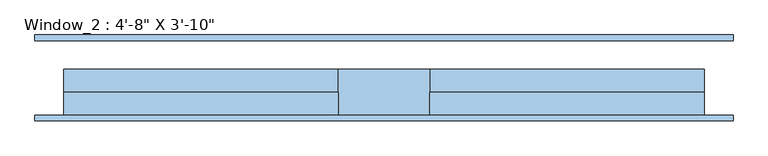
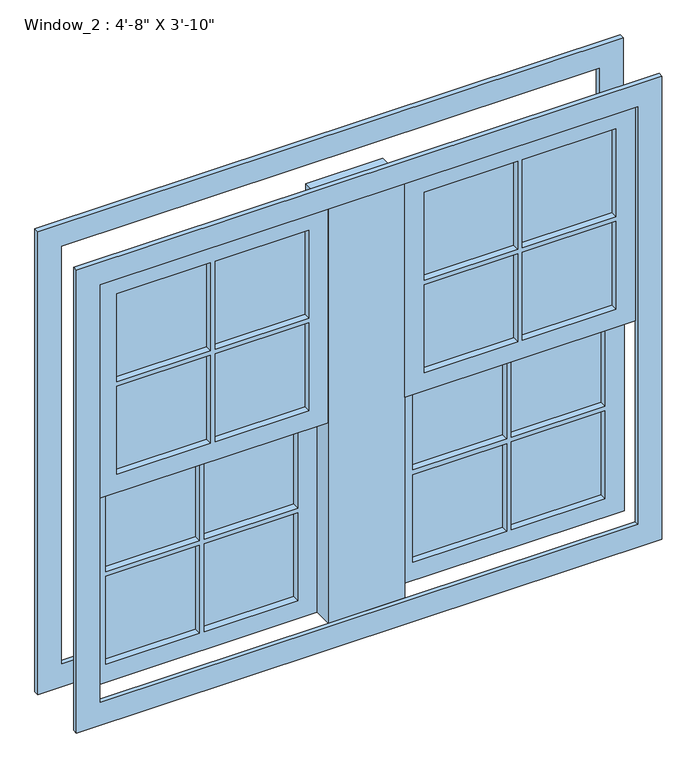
"""IFC4 building model written with IfcOpenShell, lengths in millimetres: window geometry."""

from ifc_helpers import new_model, si_unit, frame, origin, place, context, project, spatial, polyline, outline, extrude, source, transform, mapped, element, save


def window_33727982(model_context):
    return source(origin(), model_context, "Body", "SweptSolid", [
        extrude(outline(polyline([(660.4, -50.8), (660.4, -64.0853592), (412.75, -64.0853592), (412.75, -50.8), (660.4, -50.8)])), frame((0.0, 0.0, 1684.3375), z_axis=(0.0, 0.0, 1.0), x_axis=(1.0, 0.0, 0.0)), (0.0, 0.0, 1.0), 246.0625),
        extrude(outline(polyline([(660.4, -50.8), (660.4, -64.0853592), (412.75, -64.0853592), (412.75, -50.8), (660.4, -50.8)])), frame((0.0, 0.0, 1425.575), z_axis=(0.0, 0.0, 1.0), x_axis=(1.0, 0.0, 0.0)), (0.0, 0.0, 1.0), 246.0625),
        extrude(outline(polyline([(400.05, -50.8), (400.05, -64.0853592), (152.4, -64.0853592), (152.4, -50.8), (400.05, -50.8)])), frame((0.0, 0.0, 1425.575), z_axis=(0.0, 0.0, 1.0), x_axis=(1.0, 0.0, 0.0)), (0.0, 0.0, 1.0), 246.0625),
        extrude(outline(polyline([(400.05, -50.8), (400.05, -64.0853592), (152.4, -64.0853592), (152.4, -50.8), (400.05, -50.8)])), frame((0.0, 0.0, 1684.3375), z_axis=(0.0, 0.0, 1.0), x_axis=(1.0, 0.0, 0.0)), (0.0, 0.0, 1.0), 246.0625),
        extrude(outline(polyline([(-412.75, -50.8), (-412.75, -64.0853592), (-660.4, -64.0853592), (-660.4, -50.8), (-412.75, -50.8)])), frame((0.0, 0.0, 1684.3375), z_axis=(0.0, 0.0, 1.0), x_axis=(1.0, 0.0, 0.0)), (0.0, 0.0, 1.0), 246.0625),
        extrude(outline(polyline([(-412.75, -50.8), (-412.75, -64.0853592), (-660.4, -64.0853592), (-660.4, -50.8), (-412.75, -50.8)])), frame((0.0, 0.0, 1425.575), z_axis=(0.0, 0.0, 1.0), x_axis=(1.0, 0.0, 0.0)), (0.0, 0.0, 1.0), 246.0625),
        extrude(outline(polyline([(-152.4, -50.8), (-152.4, -64.0853592), (-400.05, -64.0853592), (-400.05, -50.8), (-152.4, -50.8)])), frame((0.0, 0.0, 1425.575), z_axis=(0.0, 0.0, 1.0), x_axis=(1.0, 0.0, 0.0)), (0.0, 0.0, 1.0), 246.0625),
        extrude(outline(polyline([(-152.4, -50.8), (-152.4, -64.0853592), (-400.05, -64.0853592), (-400.05, -50.8), (-152.4, -50.8)])), frame((0.0, 0.0, 1684.3375), z_axis=(0.0, 0.0, 1.0), x_axis=(1.0, 0.0, 0.0)), (0.0, 0.0, 1.0), 246.0625),
        extrude(outline(polyline([(1981.2, 101.6), (1374.775, 101.6), (1374.775, 711.2), (1981.2, 711.2), (1981.2, 101.6)]), holes=[polyline([(1930.4, 412.75), (1930.4, 660.4), (1684.3375, 660.4), (1684.3375, 412.75), (1930.4, 412.75)]), polyline([(1425.575, 412.75), (1671.6375, 412.75), (1671.6375, 660.4), (1425.575, 660.4), (1425.575, 412.75)]), polyline([(1671.6375, 152.4), (1671.6375, 400.05), (1425.575, 400.05), (1425.575, 152.4), (1671.6375, 152.4)]), polyline([(1684.3375, 400.05), (1684.3375, 152.4), (1930.4, 152.4), (1930.4, 400.05), (1684.3375, 400.05)])]), frame((0.0, -82.55, 0.0), z_axis=(0.0, 1.0, 0.0), x_axis=(0.0, 0.0, 1.0)), (0.0, 0.0, 1.0), 50.8),
        extrude(outline(polyline([(1981.2, -101.6), (1981.2, -711.2), (1374.775, -711.2), (1374.775, -101.6), (1981.2, -101.6)]), holes=[polyline([(1930.4, -412.75), (1684.3375, -412.75), (1684.3375, -660.4), (1930.4, -660.4), (1930.4, -412.75)]), polyline([(1425.575, -412.75), (1425.575, -660.4), (1671.6375, -660.4), (1671.6375, -412.75), (1425.575, -412.75)]), polyline([(1671.6375, -152.4), (1425.575, -152.4), (1425.575, -400.05), (1671.6375, -400.05), (1671.6375, -152.4)]), polyline([(1684.3375, -400.05), (1930.4, -400.05), (1930.4, -152.4), (1684.3375, -152.4), (1684.3375, -400.05)])]), frame((0.0, -82.55, 0.0), z_axis=(0.0, 1.0, 0.0), x_axis=(0.0, 0.0, 1.0)), (0.0, 0.0, 1.0), 50.8),
        extrude(outline(polyline([(-101.6, -82.55), (-101.6, 19.05), (101.6, 19.05), (101.6, -82.55), (-101.6, -82.55)])), frame((0.0, 0.0, 812.8), z_axis=(0.0, 0.0, 1.0), x_axis=(1.0, 0.0, 0.0)), (0.0, 0.0, 1.0), 1168.4),
        extrude(outline(polyline([(412.75, -12.7), (412.75, 0.0), (660.4, 0.0), (660.4, -12.7), (412.75, -12.7)])), frame((0.0, 0.0, 1122.3625), z_axis=(0.0, 0.0, 1.0), x_axis=(1.0, 0.0, 0.0)), (0.0, 0.0, 1.0), 252.4125),
        extrude(outline(polyline([(412.75, -12.7), (412.75, 0.0), (660.4, 0.0), (660.4, -12.7), (412.75, -12.7)])), frame((0.0, 0.0, 863.6), z_axis=(0.0, 0.0, 1.0), x_axis=(1.0, 0.0, 0.0)), (0.0, 0.0, 1.0), 246.0625),
        extrude(outline(polyline([(152.4, -12.7), (152.4, 0.0), (400.05, 0.0), (400.05, -12.7), (152.4, -12.7)])), frame((0.0, 0.0, 863.6), z_axis=(0.0, 0.0, 1.0), x_axis=(1.0, 0.0, 0.0)), (0.0, 0.0, 1.0), 246.0625),
        extrude(outline(polyline([(152.4, -12.7), (152.4, 0.0), (400.05, 0.0), (400.05, -12.7), (152.4, -12.7)])), frame((0.0, 0.0, 1122.3625), z_axis=(0.0, 0.0, 1.0), x_axis=(1.0, 0.0, 0.0)), (0.0, 0.0, 1.0), 252.4125),
        extrude(outline(polyline([(-660.4, -12.7), (-660.4, 0.0), (-412.75, 0.0), (-412.75, -12.7), (-660.4, -12.7)])), frame((0.0, 0.0, 863.6), z_axis=(0.0, 0.0, 1.0), x_axis=(1.0, 0.0, 0.0)), (0.0, 0.0, 1.0), 246.0625),
        extrude(outline(polyline([(-400.05, -12.7), (-400.05, 0.0), (-152.4, 0.0), (-152.4, -12.7), (-400.05, -12.7)])), frame((0.0, 0.0, 863.6), z_axis=(0.0, 0.0, 1.0), x_axis=(1.0, 0.0, 0.0)), (0.0, 0.0, 1.0), 246.0625),
        extrude(outline(polyline([(-400.05, -12.7), (-400.05, 0.0), (-152.4, 0.0), (-152.4, -12.7), (-400.05, -12.7)])), frame((0.0, 0.0, 1122.3625), z_axis=(0.0, 0.0, 1.0), x_axis=(1.0, 0.0, 0.0)), (0.0, 0.0, 1.0), 252.4125),
        extrude(outline(polyline([(-660.4, -12.7), (-660.4, 0.0), (-412.75, 0.0), (-412.75, -12.7), (-660.4, -12.7)])), frame((0.0, 0.0, 1122.3625), z_axis=(0.0, 0.0, 1.0), x_axis=(1.0, 0.0, 0.0)), (0.0, 0.0, 1.0), 252.4125),
        extrude(outline(polyline([(1425.575, 101.6), (812.8, 101.6), (812.8, 711.2), (1425.575, 711.2), (1425.575, 101.6)]), holes=[polyline([(1122.3625, 400.05), (1122.3625, 152.4), (1374.775, 152.4), (1374.775, 400.05), (1122.3625, 400.05)]), polyline([(863.6, 412.75), (1109.6625, 412.75), (1109.6625, 660.4), (863.6, 660.4), (863.6, 412.75)]), polyline([(1109.6625, 152.4), (1109.6625, 400.05), (863.6, 400.05), (863.6, 152.4), (1109.6625, 152.4)]), polyline([(1374.775, 412.75), (1374.775, 660.4), (1122.3625, 660.4), (1122.3625, 412.75), (1374.775, 412.75)])]), frame((0.0, -31.75, 0.0), z_axis=(0.0, 1.0, 0.0), x_axis=(0.0, 0.0, 1.0)), (0.0, 0.0, 1.0), 50.8),
        extrude(outline(polyline([(812.8, -711.2), (812.8, -101.6), (1425.575, -101.6), (1425.575, -711.2), (812.8, -711.2)]), holes=[polyline([(1374.775, -412.75), (1122.3625, -412.75), (1122.3625, -660.4), (1374.775, -660.4), (1374.775, -412.75)]), polyline([(1122.3625, -400.05), (1374.775, -400.05), (1374.775, -152.4), (1122.3625, -152.4), (1122.3625, -400.05)]), polyline([(863.6, -412.75), (863.6, -660.4), (1109.6625, -660.4), (1109.6625, -412.75), (863.6, -412.75)]), polyline([(1109.6625, -152.4), (863.6, -152.4), (863.6, -400.05), (1109.6625, -400.05), (1109.6625, -152.4)])]), frame((0.0, -31.75, 0.0), z_axis=(0.0, 1.0, 0.0), x_axis=(0.0, 0.0, 1.0)), (0.0, 0.0, 1.0), 50.8),
        extrude(outline(polyline([(749.3, 774.7), (2044.7, 774.7), (2044.7, -774.7), (749.3, -774.7), (749.3, 774.7)]), holes=[polyline([(812.8, 711.2), (812.8, -711.2), (1981.2, -711.2), (1981.2, 711.2), (812.8, 711.2)])]), frame((0.0, 82.55, 0.0), z_axis=(0.0, 1.0, 0.0), x_axis=(0.0, 0.0, 1.0)), (0.0, 0.0, 1.0), 12.7),
        extrude(outline(polyline([(749.3, 774.7), (2044.7, 774.7), (2044.7, -774.7), (749.3, -774.7), (749.3, 774.7)]), holes=[polyline([(812.8, 711.2), (812.8, -711.2), (1981.2, -711.2), (1981.2, 711.2), (812.8, 711.2)])]), frame((0.0, -95.25, 0.0), z_axis=(0.0, 1.0, 0.0), x_axis=(0.0, 0.0, 1.0)), (0.0, 0.0, 1.0), 12.7),
    ])


if __name__ == "__main__":
    model = new_model("IFC4")
    model_context = context("Model", 3, world=origin())
    ifc_project = project(units=[si_unit("LENGTHUNIT", "METRE", prefix="MILLI")], contexts=[model_context])
    site = spatial("IfcSite", under=ifc_project)
    building = spatial("IfcBuilding", under=site)
    placement = place(None, origin())
    window_shape = window_33727982(model_context)
    element("IfcWindow", 1, ObjectType="Window_2 : 4'-8\" X 3'-10\"", at=placement, inside=building, context=model_context, shape_type="MappedRepresentation", body=[
        mapped(window_shape, transform((0.0, 0.0, 0.0), x_axis=(1.0, 0.0, 0.0), y_axis=(0.0, 1.0, 0.0), z_axis=(0.0, 0.0, 1.0))),
    ])
    save(model, "model.ifc")
